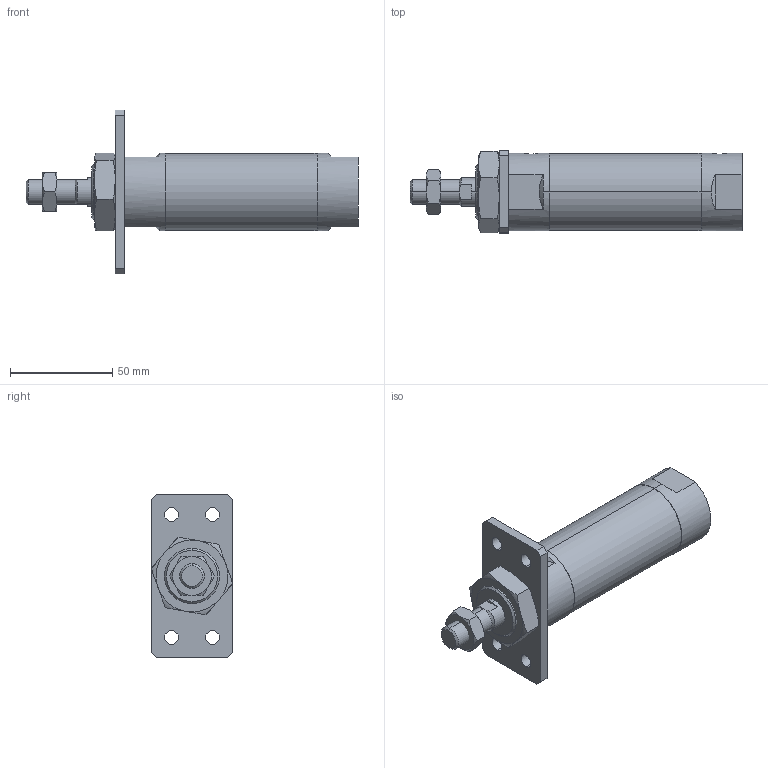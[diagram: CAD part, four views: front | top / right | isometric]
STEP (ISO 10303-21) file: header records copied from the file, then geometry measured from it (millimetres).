
FILE_DESCRIPTION (( 'STEP AP203' ), '1' );
FILE_NAME ('JGND2-32-25-A.STEP', '2016-08-04T02:46:50', ( '' ), ( '' ), 'SwSTEP 2.0', 'SolidWorks 2014', '' );
FILE_SCHEMA (( 'CONFIG_CONTROL_DESIGN' ));
Length unit declared in the file: millimetre
Products named in the file (5): J#2-32-A; JGND2-32-25-A; J#2-32-25(P)
Assembly tree (4 placements, depth 2):
  JGND2-32-25-A
    J#2-32-25(P)
    (unnamed)
    (unnamed)
    J#2-32-A
Bounding box: 162 x 40 x 80 mm (x, y, z)
Volume: 154654 mm3; surface area: 30428.3 mm2
Topology: 4 solids, 4 shells, 109 faces, 254 edges, 155 vertices
Faces by surface type: plane 42, cylinder 30, torus 24, cone 13
Entity records: 4084 total; most frequent: CARTESIAN_POINT 1128, DIRECTION 511, ORIENTED_EDGE 500, EDGE_CURVE 250, AXIS2_PLACEMENT_3D 208, VERTEX_POINT 155, EDGE_LOOP 129, ADVANCED_FACE 109
